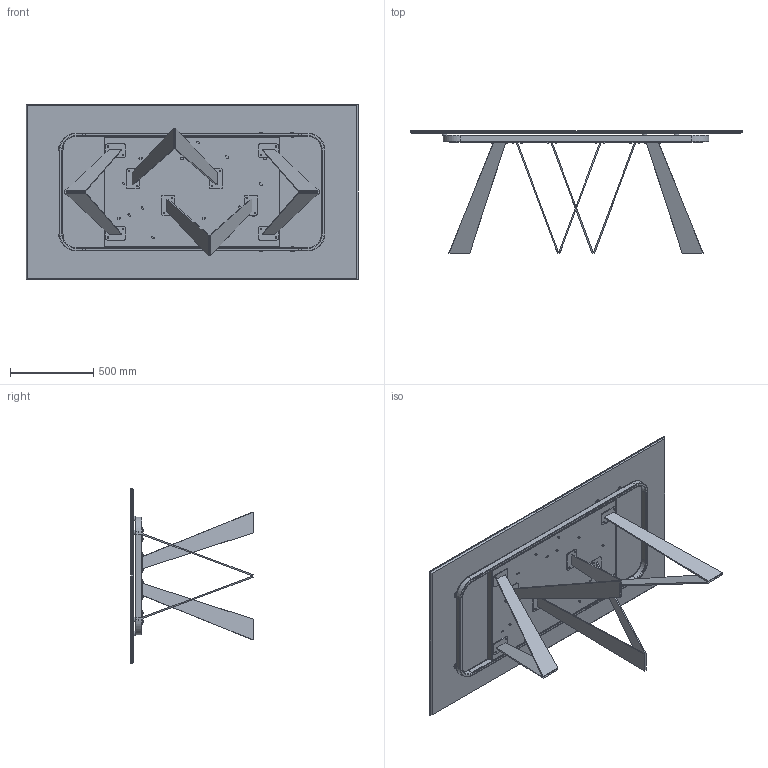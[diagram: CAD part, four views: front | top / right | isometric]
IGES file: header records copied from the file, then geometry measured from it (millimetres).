
Start section: SolidWorks IGES file using analytic representation for surfaces
Global section: file name: Y:\eforma\TECNICO\SOLIDWORKS\E-FORMA\1-TAVOLI\NOA TAVOLO\02 parts\NO21C_Noa_200x106x75h_Ceramic Rectangular.IGS; native system: SolidWorks 2022; preprocessor: SolidWorks 2022; author: eforma.tech; date: 240807.163029; units: millimetre
Bounding box: 2000 x 735.8 x 1060 mm (x, y, z)
Volume: 42892428.9 mm3; surface area: 12592342.1 mm2
Topology: 71 solids, 71 shells, 1490 faces, 3408 edges, 2044 vertices
Faces by surface type: revolution 892, plane 598
